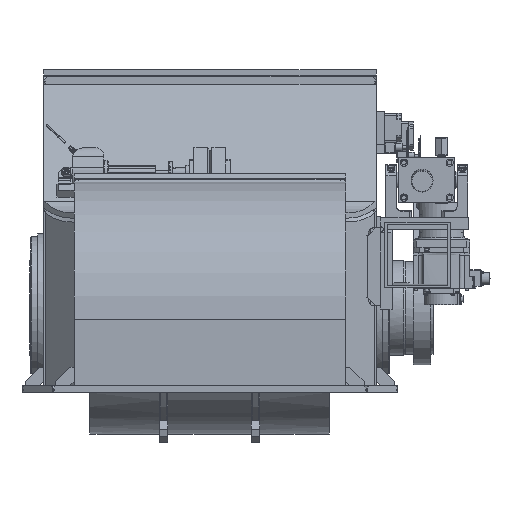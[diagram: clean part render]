
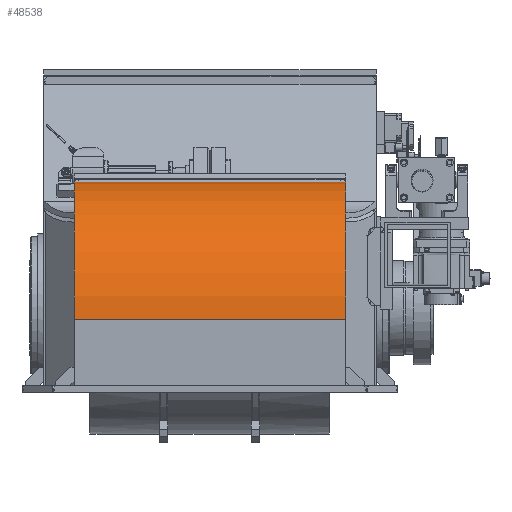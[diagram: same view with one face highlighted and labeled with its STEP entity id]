
A CAD part, front view. The second image highlights one B-rep face of the part: STEP entity #48538.
In plain terms, the highlighted cylindrical face has radius 319 mm (diameter 638 mm), a partial arc.
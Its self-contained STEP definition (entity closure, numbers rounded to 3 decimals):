
#1893=CYLINDRICAL_SURFACE('',#52763,319.);
#3959=FACE_OUTER_BOUND('',#6933,.T.);
#6933=EDGE_LOOP('',(#39121,#39122,#39123,#39124));
#9400=CIRCLE('',#52764,319.);
#9401=CIRCLE('',#52765,319.);
#13286=LINE('',#79073,#17280);
#13293=LINE('',#79088,#17287);
#17280=VECTOR('',#64348,10.);
#17287=VECTOR('',#64359,10.);
#21353=VERTEX_POINT('',#78855);
#21386=VERTEX_POINT('',#78968);
#21410=VERTEX_POINT('',#79081);
#21413=VERTEX_POINT('',#79086);
#27534=EDGE_CURVE('',#21353,#21386,#13286,.T.);
#27541=EDGE_CURVE('',#21413,#21410,#13293,.T.);
#27542=EDGE_CURVE('',#21353,#21413,#9400,.T.);
#27543=EDGE_CURVE('',#21410,#21386,#9401,.T.);
#39121=ORIENTED_EDGE('',*,*,#27541,.F.);
#39122=ORIENTED_EDGE('',*,*,#27542,.F.);
#39123=ORIENTED_EDGE('',*,*,#27534,.T.);
#39124=ORIENTED_EDGE('',*,*,#27543,.F.);
#48538=ADVANCED_FACE('',(#3959),#1893,.T.);
#52763=AXIS2_PLACEMENT_3D('',#79089,#64360,#64361);
#52764=AXIS2_PLACEMENT_3D('',#79090,#64362,#64363);
#52765=AXIS2_PLACEMENT_3D('',#79091,#64364,#64365);
#64348=DIRECTION('',(1.,0.,0.));
#64359=DIRECTION('',(1.,0.,0.));
#64360=DIRECTION('center_axis',(-1.,0.,0.));
#64361=DIRECTION('ref_axis',(0.,-1.,0.));
#64362=DIRECTION('center_axis',(-1.,0.,0.));
#64363=DIRECTION('ref_axis',(0.,-1.,0.));
#64364=DIRECTION('center_axis',(1.,0.,0.));
#64365=DIRECTION('ref_axis',(0.,0.,
1.));
#78855=CARTESIAN_POINT('',(-55.919,-468.37,163.));
#78968=CARTESIAN_POINT('',(573.081,-468.37,163.));
#79073=CARTESIAN_POINT('',(258.581,-468.37,163.));
#79081=CARTESIAN_POINT('',(573.081,-155.113,481.948));
#79086=CARTESIAN_POINT('',(-55.919,-155.113,481.948));
#79088=CARTESIAN_POINT('',(258.581,-155.113,481.948));
#79089=CARTESIAN_POINT('Origin',(258.581,-149.37,163.));
#79090=CARTESIAN_POINT('Origin',(-55.919,-149.37,163.));
#79091=CARTESIAN_POINT('Origin',(573.081,-149.37,163.));
